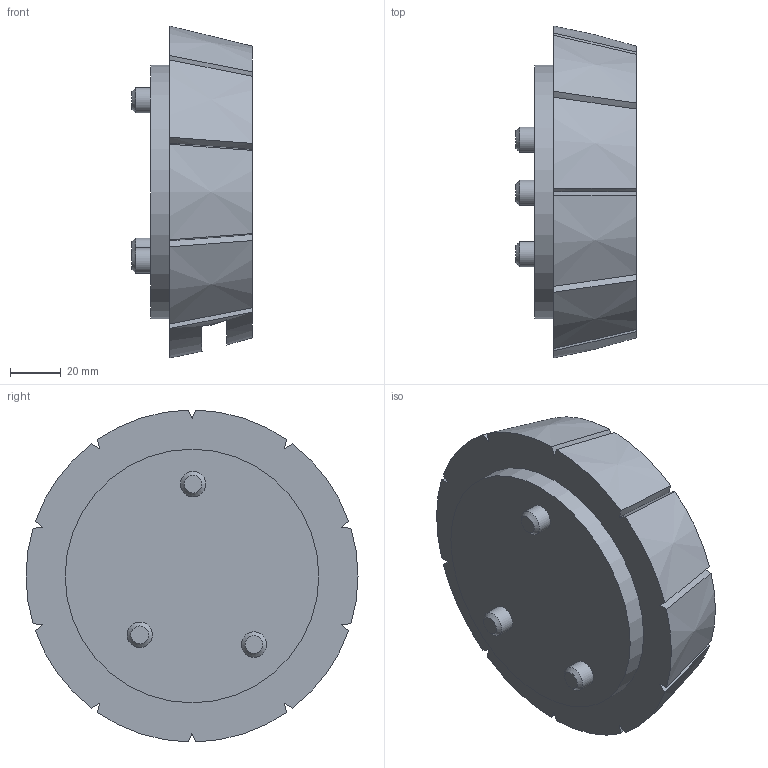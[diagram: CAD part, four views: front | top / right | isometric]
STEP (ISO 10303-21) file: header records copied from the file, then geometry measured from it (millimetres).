
FILE_DESCRIPTION(/* description */ (''),/* implementation_level */ '2;1');
FILE_NAME(/* name */ 'Right Barrel.step',/* time_stamp */ '2024-01-09T12:34:19-05:00',/* author */ (''),/* organization */ (''),/* preprocessor_version */ 'ST-DEVELOPER v20',/* originating_system */ 'Autodesk Translation Framework v12.14.0.127',/* authorisation */ '');
FILE_SCHEMA (('AUTOMOTIVE_DESIGN { 1 0 10303 214 3 1 1 }'));
Length unit declared in the file: millimetre
Products named in the file (1): Right Barrel
Bounding box: 47.5 x 130.92 x 130.89 mm (x, y, z)
Volume: 377086.8 mm3; surface area: 46693.3 mm2
Topology: 1 solids, 1 shells, 62 faces, 153 edges, 101 vertices
Faces by surface type: bspline 32, plane 15, cylinder 12, cone 3
Full cylindrical faces by diameter (mm): 10 x6, 100 x2
Entity records: 2055 total; most frequent: CARTESIAN_POINT 717, ORIENTED_EDGE 306, DIRECTION 219, EDGE_CURVE 153, VERTEX_POINT 101, AXIS2_PLACEMENT_3D 89, EDGE_LOOP 70, FACE_OUTER_BOUND 62
